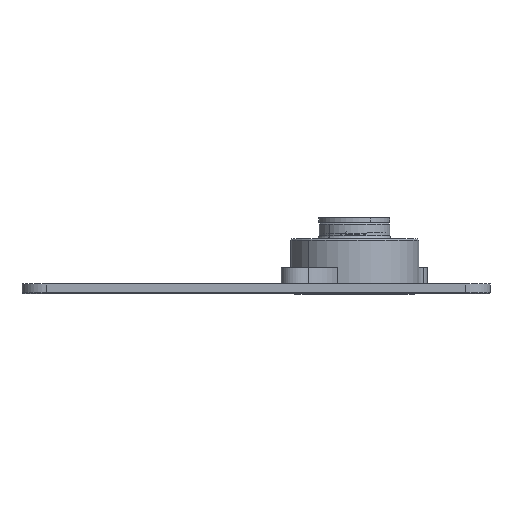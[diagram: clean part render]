
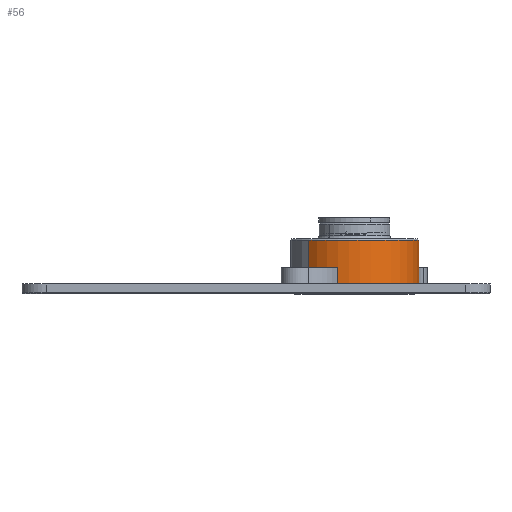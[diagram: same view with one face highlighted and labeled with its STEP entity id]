
A CAD part, left-side view. The second image highlights one B-rep face of the part: STEP entity #56.
In plain terms, the highlighted cylindrical face has radius 20 mm (diameter 40 mm), a partial arc.
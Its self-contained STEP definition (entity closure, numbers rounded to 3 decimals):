
#56 = ADVANCED_FACE ( 'NONE', ( #3344 ), #6211, .T. ) ;
#59 = CARTESIAN_POINT ( 'NONE',  ( -17.333, -9.978, 0. ) ) ;
#71 = LINE ( 'NONE', #2913, #1331 ) ;
#104 = DIRECTION ( 'NONE',  ( -1., 0., 0. ) ) ;
#199 = VERTEX_POINT ( 'NONE', #3530 ) ;
#227 = CARTESIAN_POINT ( 'NONE',  ( -20., 0., 8. ) ) ;
#306 = ORIENTED_EDGE ( 'NONE', *, *, #2586, .T. ) ;
#335 = AXIS2_PLACEMENT_3D ( 'NONE', #2365, #4284, #6209 ) ;
#372 = VERTEX_POINT ( 'NONE', #5985 ) ;
#380 = DIRECTION ( 'NONE',  ( 0., 0., -1. ) ) ;
#435 = ORIENTED_EDGE ( 'NONE', *, *, #4316, .T. ) ;
#450 = CARTESIAN_POINT ( 'NONE',  ( 20., 0., 5. ) ) ;
#498 = ORIENTED_EDGE ( 'NONE', *, *, #2114, .T. ) ;
#547 = EDGE_CURVE ( 'NONE', #1721, #4700, #5725, .T. ) ;
#574 = VERTEX_POINT ( 'NONE', #4402 ) ;
#652 = AXIS2_PLACEMENT_3D ( 'NONE', #5740, #1403, #2461 ) ;
#755 = CIRCLE ( 'NONE', #1262, 20. ) ;
#803 = CARTESIAN_POINT ( 'NONE',  ( 20., 0., 8. ) ) ;
#844 = AXIS2_PLACEMENT_3D ( 'NONE', #896, #2370, #5159 ) ;
#884 = CARTESIAN_POINT ( 'NONE',  ( 0., 0., 0. ) ) ;
#896 = CARTESIAN_POINT ( 'NONE',  ( 0., 0., 0. ) ) ;
#905 = CARTESIAN_POINT ( 'NONE',  ( -17.333, -9.978, 8. ) ) ;
#1008 = CARTESIAN_POINT ( 'NONE',  ( -20., 0., 8. ) ) ;
#1025 = ORIENTED_EDGE ( 'NONE', *, *, #1223, .T. ) ;
#1046 = DIRECTION ( 'NONE',  ( 0., 0., 1. ) ) ;
#1048 = CARTESIAN_POINT ( 'NONE',  ( 17.333, -9.978, 0. ) ) ;
#1223 = EDGE_CURVE ( 'NONE', #372, #5729, #3023, .T. ) ;
#1235 = VERTEX_POINT ( 'NONE', #5428 ) ;
#1262 = AXIS2_PLACEMENT_3D ( 'NONE', #4855, #1046, #2459 ) ;
#1331 = VECTOR ( 'NONE', #4831, 1000. ) ;
#1340 = CIRCLE ( 'NONE', #335, 20. ) ;
#1403 = DIRECTION ( 'NONE',  ( 0., 0., -1. ) ) ;
#1404 = CARTESIAN_POINT ( 'NONE',  ( 20., 0., 8. ) ) ;
#1496 = CARTESIAN_POINT ( 'NONE',  ( -20., 0., 8. ) ) ;
#1561 = VECTOR ( 'NONE', #5198, 1000. ) ;
#1642 = EDGE_CURVE ( 'NONE', #6129, #5729, #5741, .T. ) ;
#1693 = VECTOR ( 'NONE', #4683, 1000. ) ;
#1721 = VERTEX_POINT ( 'NONE', #1952 ) ;
#1801 = ORIENTED_EDGE ( 'NONE', *, *, #4458, .T. ) ;
#1877 = EDGE_CURVE ( 'NONE', #5696, #2134, #71, .T. ) ;
#1952 = CARTESIAN_POINT ( 'NONE',  ( -17.333, -9.978, 5. ) ) ;
#2114 = EDGE_CURVE ( 'NONE', #2134, #5548, #5326, .T. ) ;
#2134 = VERTEX_POINT ( 'NONE', #2808 ) ;
#2169 = CIRCLE ( 'NONE', #844, 20. ) ;
#2227 = EDGE_LOOP ( 'NONE', ( #4680, #2270, #435, #3626, #4596, #1801, #5000, #1025, #2772, #306, #4966, #498 ) ) ;
#2270 = ORIENTED_EDGE ( 'NONE', *, *, #5651, .F. ) ;
#2365 = CARTESIAN_POINT ( 'NONE',  ( 0., 0., 8. ) ) ;
#2370 = DIRECTION ( 'NONE',  ( 0., 0., -1. ) ) ;
#2451 = DIRECTION ( 'NONE',  ( 0., 0., -1. ) ) ;
#2459 = DIRECTION ( 'NONE',  ( 1., 0., 0. ) ) ;
#2461 = DIRECTION ( 'NONE',  ( -1., 0., 0. ) ) ;
#2586 = EDGE_CURVE ( 'NONE', #6129, #5696, #2169, .T. ) ;
#2660 = EDGE_CURVE ( 'NONE', #1235, #5548, #3287, .T. ) ;
#2772 = ORIENTED_EDGE ( 'NONE', *, *, #1642, .F. ) ;
#2808 = CARTESIAN_POINT ( 'NONE',  ( 17.333, -9.978, 5. ) ) ;
#2832 = DIRECTION ( 'NONE',  ( 1., 0., 0. ) ) ;
#2913 = CARTESIAN_POINT ( 'NONE',  ( 17.333, -9.978, 8. ) ) ;
#3023 = CIRCLE ( 'NONE', #3515, 20. ) ;
#3242 = CARTESIAN_POINT ( 'NONE',  ( 0., 0., 5. ) ) ;
#3287 = LINE ( 'NONE', #803, #1561 ) ;
#3344 = FACE_OUTER_BOUND ( 'NONE', #2227, .T. ) ;
#3397 = VECTOR ( 'NONE', #5040, 1000. ) ;
#3515 = AXIS2_PLACEMENT_3D ( 'NONE', #3945, #4452, #104 ) ;
#3530 = CARTESIAN_POINT ( 'NONE',  ( -20., 0., 5. ) ) ;
#3626 = ORIENTED_EDGE ( 'NONE', *, *, #4122, .T. ) ;
#3649 = LINE ( 'NONE', #227, #3397 ) ;
#3681 = DIRECTION ( 'NONE',  ( 1., 0., 0. ) ) ;
#3716 = DIRECTION ( 'NONE',  ( 0., 0., 1. ) ) ;
#3767 = EDGE_CURVE ( 'NONE', #574, #372, #3649, .T. ) ;
#3945 = CARTESIAN_POINT ( 'NONE',  ( 0., 0., -8.5 ) ) ;
#4122 = EDGE_CURVE ( 'NONE', #199, #1721, #755, .T. ) ;
#4284 = DIRECTION ( 'NONE',  ( 0., 0., 1. ) ) ;
#4316 = EDGE_CURVE ( 'NONE', #6186, #199, #4875, .T. ) ;
#4402 = CARTESIAN_POINT ( 'NONE',  ( -20., 0., 0. ) ) ;
#4452 = DIRECTION ( 'NONE',  ( 0., 0., 1. ) ) ;
#4458 = EDGE_CURVE ( 'NONE', #4700, #574, #4816, .T. ) ;
#4515 = AXIS2_PLACEMENT_3D ( 'NONE', #884, #380, #2832 ) ;
#4596 = ORIENTED_EDGE ( 'NONE', *, *, #547, .T. ) ;
#4661 = CARTESIAN_POINT ( 'NONE',  ( 20., 0., 0. ) ) ;
#4680 = ORIENTED_EDGE ( 'NONE', *, *, #2660, .F. ) ;
#4683 = DIRECTION ( 'NONE',  ( 0., 0., -1. ) ) ;
#4700 = VERTEX_POINT ( 'NONE', #59 ) ;
#4816 = CIRCLE ( 'NONE', #4515, 20. ) ;
#4831 = DIRECTION ( 'NONE',  ( 0., 0., 1. ) ) ;
#4855 = CARTESIAN_POINT ( 'NONE',  ( 0., 0., 5. ) ) ;
#4875 = LINE ( 'NONE', #1496, #5387 ) ;
#4966 = ORIENTED_EDGE ( 'NONE', *, *, #1877, .T. ) ;
#5000 = ORIENTED_EDGE ( 'NONE', *, *, #3767, .T. ) ;
#5040 = DIRECTION ( 'NONE',  ( 0., 0., -1. ) ) ;
#5159 = DIRECTION ( 'NONE',  ( 1., 0., 0. ) ) ;
#5198 = DIRECTION ( 'NONE',  ( 0., 0., -1. ) ) ;
#5258 = DIRECTION ( 'NONE',  ( 0., 0., -1. ) ) ;
#5326 = CIRCLE ( 'NONE', #6233, 20. ) ;
#5387 = VECTOR ( 'NONE', #2451, 1000. ) ;
#5428 = CARTESIAN_POINT ( 'NONE',  ( 20., 0., 8. ) ) ;
#5548 = VERTEX_POINT ( 'NONE', #450 ) ;
#5651 = EDGE_CURVE ( 'NONE', #6186, #1235, #1340, .T. ) ;
#5696 = VERTEX_POINT ( 'NONE', #1048 ) ;
#5725 = LINE ( 'NONE', #905, #1693 ) ;
#5729 = VERTEX_POINT ( 'NONE', #5799 ) ;
#5740 = CARTESIAN_POINT ( 'NONE',  ( 0., 0., 8. ) ) ;
#5741 = LINE ( 'NONE', #1404, #5996 ) ;
#5799 = CARTESIAN_POINT ( 'NONE',  ( 20., 0., -8.5 ) ) ;
#5985 = CARTESIAN_POINT ( 'NONE',  ( -20., 0., -8.5 ) ) ;
#5996 = VECTOR ( 'NONE', #5258, 1000. ) ;
#6129 = VERTEX_POINT ( 'NONE', #4661 ) ;
#6186 = VERTEX_POINT ( 'NONE', #1008 ) ;
#6209 = DIRECTION ( 'NONE',  ( 1., 0., 0. ) ) ;
#6211 = CYLINDRICAL_SURFACE ( 'NONE', #652, 20. ) ;
#6233 = AXIS2_PLACEMENT_3D ( 'NONE', #3242, #3716, #3681 ) ;
